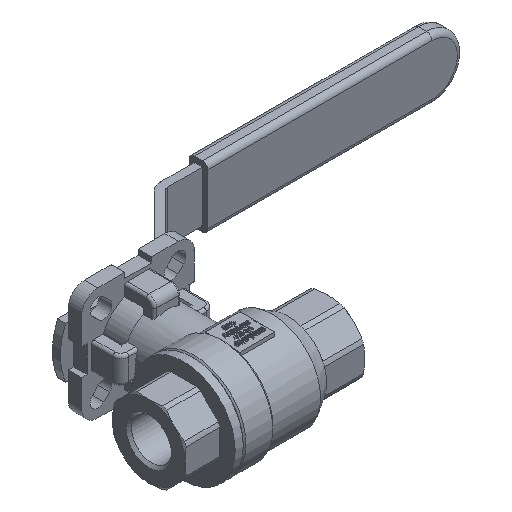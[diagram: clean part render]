
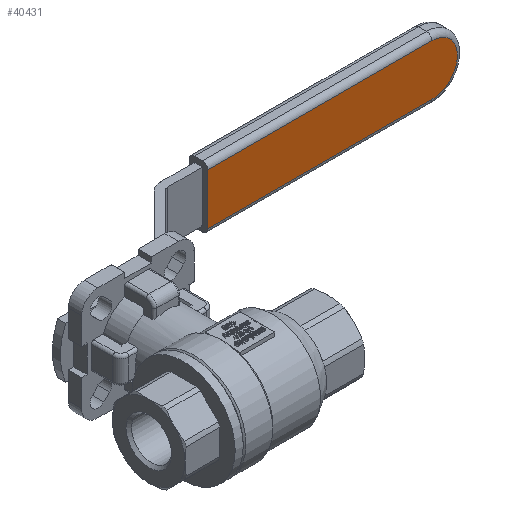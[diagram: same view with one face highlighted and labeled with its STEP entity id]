
A CAD part, isometric view. The second image highlights one B-rep face of the part: STEP entity #40431.
In plain terms, the highlighted planar face has unit normal (0, -1, 0).
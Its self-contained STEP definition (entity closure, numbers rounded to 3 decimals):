
#40314=CARTESIAN_POINT('',(55.,67.,9.5));
#40315=VERTEX_POINT('',#40314);
#40323=CARTESIAN_POINT('',(138.5,67.,9.5));
#40324=VERTEX_POINT('',#40323);
#40325=CARTESIAN_POINT('',(55.,67.,9.5));
#40326=DIRECTION('',(1.0,0.0,0.0));
#40327=VECTOR('',#40326,83.5);
#40328=LINE('',#40325,#40327);
#40329=EDGE_CURVE('',#40315,#40324,#40328,.T.);
#40354=CARTESIAN_POINT('',(138.5,67.,-9.5));
#40355=VERTEX_POINT('',#40354);
#40373=CARTESIAN_POINT('',(138.5,67.,0.));
#40374=DIRECTION('',(0.0,1.0,0.0));
#40375=DIRECTION('',(1.0,0.0,0.0));
#40376=AXIS2_PLACEMENT_3D('',#40373,#40374,#40375);
#40377=CIRCLE('',#40376,9.5);
#40378=EDGE_CURVE('',#40324,#40355,#40377,.T.);
#40388=CARTESIAN_POINT('',(55.,67.,-9.5));
#40389=VERTEX_POINT('',#40388);
#40406=CARTESIAN_POINT('',(138.5,67.,-9.5));
#40407=DIRECTION('',(-1.0,0.0,0.0));
#40408=VECTOR('',#40407,83.5);
#40409=LINE('',#40406,#40408);
#40410=EDGE_CURVE('',#40355,#40389,#40409,.T.);
#40415=CARTESIAN_POINT('',(55.,67.,-11.5));
#40416=DIRECTION('',(0.0,-1.0,0.0));
#40417=DIRECTION('',(0.0,0.0,-1.0));
#40418=AXIS2_PLACEMENT_3D('',#40415,#40416,#40417);
#40419=PLANE('',#40418);
#40420=ORIENTED_EDGE('',*,*,#40410,.F.);
#40421=ORIENTED_EDGE('',*,*,#40378,.F.);
#40422=ORIENTED_EDGE('',*,*,#40329,.F.);
#40423=CARTESIAN_POINT('',(55.,67.,9.5));
#40424=DIRECTION('',(0.0,0.0,-1.0));
#40425=VECTOR('',#40424,19.);
#40426=LINE('',#40423,#40425);
#40427=EDGE_CURVE('',#40315,#40389,#40426,.T.);
#40428=ORIENTED_EDGE('',*,*,#40427,.T.);
#40429=EDGE_LOOP('',(#40420,#40421,#40422,#40428));
#40430=FACE_OUTER_BOUND('',#40429,.T.);
#40431=ADVANCED_FACE('',(#40430),#40419,.T.);
